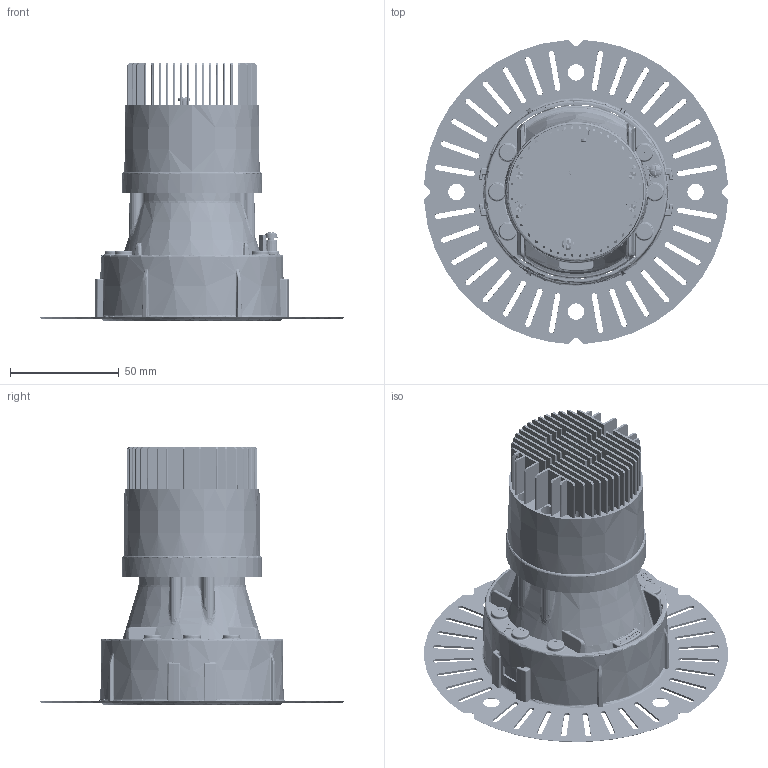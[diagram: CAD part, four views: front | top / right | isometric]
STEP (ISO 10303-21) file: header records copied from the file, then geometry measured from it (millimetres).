
FILE_DESCRIPTION(('CATIA V5 STEP Exchange'),'2;1');
FILE_NAME('C:\Users\stefano.giovinetto\Desktop\X.CP1C - M PRO Fix Round Trimless.stp','2020-10-29T14:25:16+00:00',('none'),('none'),'CATIA Version 5 Release 20 SP 7 (IN-10)','CATIA V5 STEP AP203','none');
FILE_SCHEMA(('CONFIG_CONTROL_DESIGN'));
Length unit declared in the file: millimetre
Products named in the file (1): X.CP1CK
Bounding box: 139.79 x 139.79 x 118.7 mm (x, y, z)
Volume: 100035.9 mm3; surface area: 160220.2 mm2
Topology: 45 solids, 911 shells, 9984 faces, 30718 edges, 20799 vertices
Faces by surface type: plane 6127, cylinder 1354, sphere 1054, bspline 600, cone 464, torus 327, extrusion 58
Entity records: 426724 total; most frequent: CARTESIAN_POINT 175635, ORIENTED_EDGE 54347, DIRECTION 41596, EDGE_CURVE 29659, VERTEX_POINT 20801, VECTOR 19191, LINE 19133, AXIS2_PLACEMENT_3D 13018
